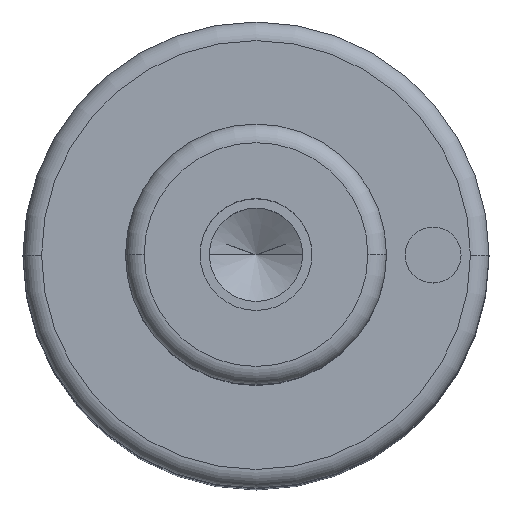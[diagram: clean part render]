
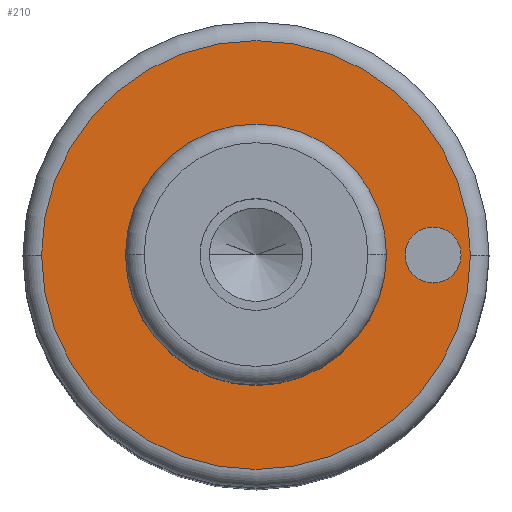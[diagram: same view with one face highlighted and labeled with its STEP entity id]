
A CAD part, top view. The second image highlights one B-rep face of the part: STEP entity #210.
In plain terms, the highlighted planar face has unit normal (0, 0, 1).
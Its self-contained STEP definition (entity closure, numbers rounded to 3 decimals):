
#99=PLANE('',#660);
#107=FACE_BOUND('',#285,.T.);
#108=FACE_BOUND('',#286,.T.);
#109=FACE_BOUND('',#287,.T.);
#210=ADVANCED_FACE('',(#107,#108,#109),#99,.T.);
#285=EDGE_LOOP('',(#395,#396));
#286=EDGE_LOOP('',(#397,#398));
#287=EDGE_LOOP('',(#399,#400));
#395=ORIENTED_EDGE('',*,*,#500,.F.);
#396=ORIENTED_EDGE('',*,*,#501,.F.);
#397=ORIENTED_EDGE('',*,*,#533,.F.);
#398=ORIENTED_EDGE('',*,*,#534,.F.);
#399=ORIENTED_EDGE('',*,*,#496,.T.);
#400=ORIENTED_EDGE('',*,*,#494,.T.);
#447=VERTEX_POINT('',#894);
#448=VERTEX_POINT('',#896);
#449=VERTEX_POINT('',#902);
#452=VERTEX_POINT('',#907);
#470=VERTEX_POINT('',#977);
#471=VERTEX_POINT('',#978);
#494=EDGE_CURVE('',#448,#447,#561,.T.);
#496=EDGE_CURVE('',#447,#448,#562,.T.);
#500=EDGE_CURVE('',#452,#449,#566,.T.);
#501=EDGE_CURVE('',#449,#452,#567,.T.);
#533=EDGE_CURVE('',#470,#471,#587,.T.);
#534=EDGE_CURVE('',#471,#470,#588,.T.);
#561=CIRCLE('',#612,7.);
#562=CIRCLE('',#614,7.);
#566=CIRCLE('',#619,11.5);
#567=CIRCLE('',#621,11.5);
#587=CIRCLE('',#658,1.5);
#588=CIRCLE('',#659,1.5);
#612=AXIS2_PLACEMENT_3D('',#895,#711,#712);
#614=AXIS2_PLACEMENT_3D('',#899,#716,#717);
#619=AXIS2_PLACEMENT_3D('',#908,#726,#727);
#621=AXIS2_PLACEMENT_3D('',#910,#730,#731);
#658=AXIS2_PLACEMENT_3D('',#976,#816,#817);
#659=AXIS2_PLACEMENT_3D('',#979,#818,#819);
#660=AXIS2_PLACEMENT_3D('',#980,#820,#821);
#711=DIRECTION('',(0.,0.,-1.));
#712=DIRECTION('',(0.,1.,0.));
#716=DIRECTION('',(0.,0.,-1.));
#717=DIRECTION('',(0.,-1.,0.));
#726=DIRECTION('',(0.,0.,-1.));
#727=DIRECTION('',(0.,1.,0.));
#730=DIRECTION('',(0.,0.,-1.));
#731=DIRECTION('',(0.,-1.,0.));
#816=DIRECTION('',(0.,0.,1.));
#817=DIRECTION('',(0.,1.,0.));
#818=DIRECTION('',(0.,0.,1.));
#819=DIRECTION('',(0.,-1.,0.));
#820=DIRECTION('',(0.,0.,1.));
#821=DIRECTION('',(0.,-1.,0.));
#894=CARTESIAN_POINT('',(-7.,0.,59.));
#895=CARTESIAN_POINT('',(0.,0.,59.));
#896=CARTESIAN_POINT('',(7.,0.,59.));
#899=CARTESIAN_POINT('',(0.,0.,59.));
#902=CARTESIAN_POINT('',(-11.5,0.,59.));
#907=CARTESIAN_POINT('',(11.5,0.,59.));
#908=CARTESIAN_POINT('',(0.,0.,59.));
#910=CARTESIAN_POINT('',(0.,0.,59.));
#976=CARTESIAN_POINT('',(9.5,0.,59.));
#977=CARTESIAN_POINT('',(8.,0.,59.));
#978=CARTESIAN_POINT('',(11.,0.,59.));
#979=CARTESIAN_POINT('',(9.5,0.,59.));
#980=CARTESIAN_POINT('',(0.,0.,59.));
